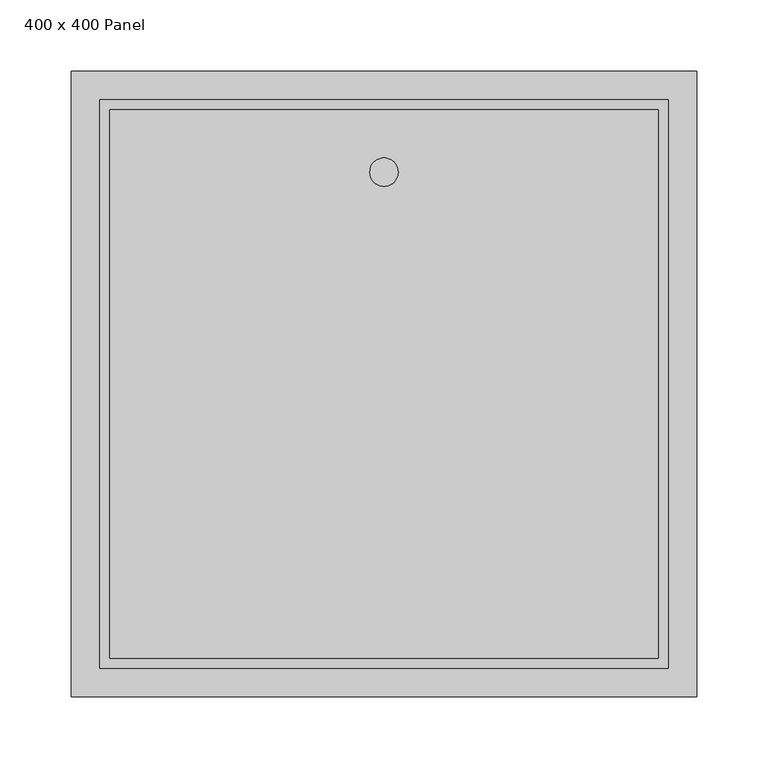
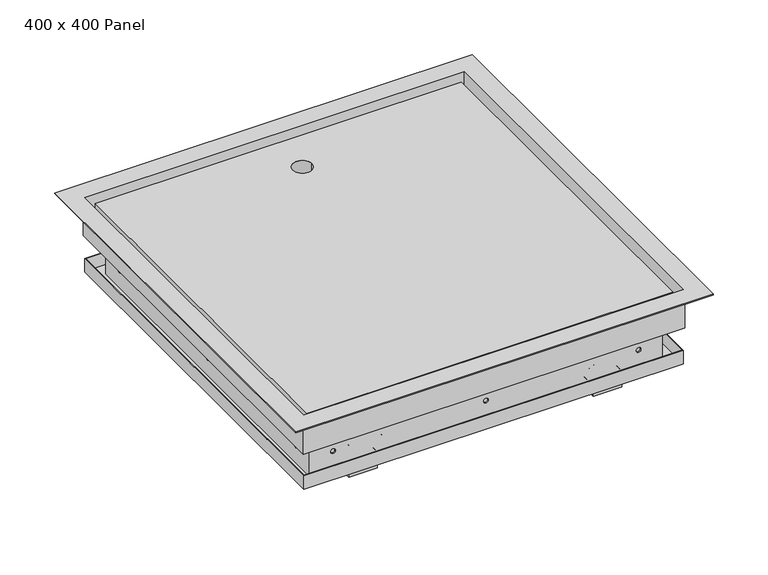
"""IFC4 building model written with IfcOpenShell, lengths in millimetres: proxy geometry, 400 x 400 Fyreshield : 400 x 400 Panel."""

from ifc_helpers import new_model, si_unit, point, frame, frame_2d, origin, place, context, project, spatial, polyline, circle_curve, trimmed, segment, composite_curve, outline, extrude, source, transform, mapped, element, save
from ifc_brep_helpers import plane_surface, revolved_surface, advanced_brep


def proxy_400_x_400_panel_3b8c4bce(model_context):
    return source(origin(), model_context, "Body", "SolidModel", [
        extrude(outline(composite_curve([segment(polyline([(169.0, -45.0), (154.0, -45.0)]), True, "CONTINUOUS"), segment(trimmed(circle_curve(frame_2d((129.0, -45.0)), 25.0), [point((154.0, -45.0))], [point((104.0, -45.0))], False, "CARTESIAN"), True, "CONTINUOUS"), segment(polyline([(104.0, -45.0), (89.0, -45.0), (89.0, -25.0), (129.0, -25.0), (169.0, -25.0), (169.0, -45.0)]), True, "CONTINUOUS")], self_intersect=False)), frame((0.0, 0.0, -43.0), z_axis=(0.0, 0.0, 1.0), x_axis=(1.0, 0.0, 0.0)), (0.0, 0.0, 1.0), 2.0),
        extrude(outline(composite_curve([segment(polyline([(-169.0, -45.0), (-169.0, -25.0), (-129.0, -25.0), (-89.0, -25.0), (-89.0, -45.0), (-104.0, -45.0)]), True, "CONTINUOUS"), segment(trimmed(circle_curve(frame_2d((-129.0, -45.0)), 25.0), [point((-104.0, -45.0))], [point((-154.0, -45.0))], False, "CARTESIAN"), True, "CONTINUOUS"), segment(polyline([(-154.0, -45.0), (-169.0, -45.0)]), True, "CONTINUOUS")], self_intersect=False)), frame((0.0, 0.0, -43.0), z_axis=(0.0, 0.0, 1.0), x_axis=(1.0, 0.0, 0.0)), (0.0, 0.0, 1.0), 2.0),
        extrude(outline(composite_curve([segment(trimmed(circle_curve(frame_2d((-65.0, -49.3136739)), 5.0), [point((-70.0, -49.3136739))], [point((-65.0, -44.3136739))], False, "CARTESIAN"), True, "CONTINUOUS"), segment(polyline([(-65.0, -44.3136739), (-48.5, -42.0), (-34.3304501, -42.0), (-34.3304501, -47.4449364)]), True, "CONTINUOUS"), segment(trimmed(circle_curve(frame_2d((-39.3304501, -47.4449364)), 5.0), [point((-34.3304501, -47.4449364))], [point((-39.3304501, -52.4449364))], False, "CARTESIAN"), True, "CONTINUOUS"), segment(polyline([(-39.3304501, -52.4449364), (-57.5, -52.4449364)]), True, "CONTINUOUS"), segment(trimmed(circle_curve(frame_2d((-57.5, -54.9449364)), 2.5), [point((-57.5, -52.4449364))], [point((-60.0, -54.9449364))], True, "CARTESIAN"), True, "CONTINUOUS"), segment(polyline([(-60.0, -54.9449364), (-60.0, -56.8136739), (-70.0, -56.8136739), (-70.0, -49.3136739)]), True, "CONTINUOUS")], self_intersect=False)), frame((-139.0, 0.0, 0.0), z_axis=(1.0, 0.0, 0.0), x_axis=(0.0, 1.0, 0.0)), (0.0, 0.0, 1.0), 20.0),
        advanced_brep(
        [(143.760434, -85.0, -63.2011546), (143.760434, -80.0, -63.2011546), (148.760434, -80.0, -63.2011546), (148.760434, -85.0, -63.2011546), (148.760434, -85.0, -72.1125194), (148.760434, -80.0, -72.1125194), (148.760434, -80.0, -77.1125194), (148.760434, -85.0, -77.1125194), (143.760434, -80.0, -77.1125194), (143.760434, -85.0, -77.1125194), (143.760434, -80.0, -72.1125194), (143.760434, -85.0, -72.1125194), (114.239566, -85.0, -63.2011546), (114.239566, -80.0, -63.2011546), (109.239566, -80.0, -63.2011546), (109.239566, -85.0, -63.2011546), (109.239566, -85.0, -77.1125194), (109.239566, -80.0, -77.1125194), (109.239566, -80.0, -72.1125194), (109.239566, -85.0, -72.1125194), (114.239566, -85.0, -77.1125194), (114.239566, -80.0, -77.1125194), (114.239566, -85.0, -72.1125194), (114.239566, -80.0, -72.1125194), (139.0, -80.0, -56.8136739), (139.0, -60.0, -56.8136739), (119.0, -60.0, -56.8136739), (119.0, -80.0, -56.8136739), (104.0, -80.0, -56.8136739), (104.0, -85.0, -56.8136739), (154.0, -85.0, -56.8136739), (154.0, -80.0, -56.8136739), (144.0, -80.0, -97.128369), (144.0, -85.0, -97.128369), (114.0, -85.0, -97.128369), (114.0, -80.0, -97.128369), (119.0, -80.0, -97.128369), (119.0, -60.0, -97.128369), (139.0, -60.0, -97.128369), (139.0, -80.0, -97.128369), (144.0, -85.0, -84.5), (146.5, -85.0, -82.0), (154.0, -85.0, -82.0), (104.0, -85.0, -82.0), (111.5, -85.0, -82.0), (114.0, -85.0, -84.5), (114.0, -80.0, -84.5), (111.5, -80.0, -82.0), (104.0, -80.0, -82.0), (154.0, -80.0, -82.0), (146.5, -80.0, -82.0), (144.0, -80.0, -84.5)],
        [
            (0, 1),
            (1, 2, circle_curve(frame((146.260434, -80.0, -63.2011546), z_axis=(0.0, 1.0, 0.0), x_axis=(1.0, 0.0, 0.0)), 2.5)),
            (2, 3),
            (3, 0, circle_curve(frame((146.260434, -85.0, -63.2011546), z_axis=(0.0, -1.0, 0.0), x_axis=(1.0, 0.0, 0.0)), 2.5)),
            (0, 3, circle_curve(frame((146.260434, -85.0, -63.2011546), z_axis=(0.0, -1.0, 0.0), x_axis=(1.0, 0.0, 0.0)), 2.5)),
            (2, 1, circle_curve(frame((146.260434, -80.0, -63.2011546), z_axis=(0.0, 1.0, 0.0), x_axis=(1.0, 0.0, 0.0)), 2.5)),
            (4, 5),
            (5, 6, circle_curve(frame((148.760434, -80.0, -74.6125194), z_axis=(0.0, 1.0, 0.0), x_axis=(1.0, 0.0, 0.0)), 2.5)),
            (6, 7),
            (7, 4, circle_curve(frame((148.760434, -85.0, -74.6125194), z_axis=(0.0, -1.0, 0.0), x_axis=(1.0, 0.0, 0.0)), 2.5)),
            (6, 8),
            (8, 9),
            (9, 7),
            (8, 10, circle_curve(frame((143.760434, -80.0, -74.6125194), z_axis=(0.0, 1.0, 0.0), x_axis=(1.0, 0.0, 0.0)), 2.5)),
            (10, 11),
            (11, 9, circle_curve(frame((143.760434, -85.0, -74.6125194), z_axis=(0.0, -1.0, 0.0), x_axis=(1.0, 0.0, 0.0)), 2.5)),
            (4, 11),
            (10, 5),
            (12, 13),
            (13, 14, circle_curve(frame((111.739566, -80.0, -63.2011546), z_axis=(0.0, 1.0, 0.0), x_axis=(1.0, 0.0, 0.0)), 2.5)),
            (14, 15),
            (15, 12, circle_curve(frame((111.739566, -85.0, -63.2011546), z_axis=(0.0, -1.0, 0.0), x_axis=(1.0, 0.0, 0.0)), 2.5)),
            (12, 15, circle_curve(frame((111.739566, -85.0, -63.2011546), z_axis=(0.0, -1.0, 0.0), x_axis=(1.0, 0.0, 0.0)), 2.5)),
            (14, 13, circle_curve(frame((111.739566, -80.0, -63.2011546), z_axis=(0.0, 1.0, 0.0), x_axis=(1.0, 0.0, 0.0)), 2.5)),
            (16, 17),
            (17, 18, circle_curve(frame((109.239566, -80.0, -74.6125194), z_axis=(0.0, 1.0, 0.0), x_axis=(1.0, 0.0, 0.0)), 2.5)),
            (18, 19),
            (19, 16, circle_curve(frame((109.239566, -85.0, -74.6125194), z_axis=(0.0, -1.0, 0.0), x_axis=(1.0, 0.0, 0.0)), 2.5)),
            (16, 20),
            (20, 21),
            (21, 17),
            (20, 22, circle_curve(frame((114.239566, -85.0, -74.6125194), z_axis=(0.0, -1.0, 0.0), x_axis=(1.0, 0.0, 0.0)), 2.5)),
            (22, 23),
            (23, 21, circle_curve(frame((114.239566, -80.0, -74.6125194), z_axis=(0.0, 1.0, 0.0), x_axis=(1.0, 0.0, 0.0)), 2.5)),
            (18, 23),
            (22, 19),
            (24, 25),
            (25, 26),
            (26, 27),
            (27, 28),
            (28, 29),
            (29, 30),
            (30, 31),
            (31, 24),
            (32, 33),
            (33, 34),
            (34, 35),
            (35, 36),
            (36, 37),
            (37, 38),
            (38, 39),
            (39, 32),
            (33, 40),
            (40, 41, circle_curve(frame((146.5, -85.0, -84.5), z_axis=(0.0, 1.0, 0.0), x_axis=(-1.0, 0.0, 0.0)), 2.5)),
            (41, 42),
            (42, 30),
            (29, 43),
            (43, 44),
            (44, 45, circle_curve(frame((111.5, -85.0, -84.5), z_axis=(0.0, 1.0, 0.0), x_axis=(-1.0, 0.0, 0.0)), 2.5)),
            (45, 34),
            (35, 46),
            (46, 47, circle_curve(frame((111.5, -80.0, -84.5), z_axis=(0.0, -1.0, 0.0), x_axis=(-1.0, 0.0, 0.0)), 2.5)),
            (47, 48),
            (48, 28),
            (27, 36),
            (39, 24),
            (31, 49),
            (49, 50),
            (50, 51, circle_curve(frame((146.5, -80.0, -84.5), z_axis=(0.0, -1.0, 0.0), x_axis=(-1.0, 0.0, 0.0)), 2.5)),
            (51, 32),
            (38, 25),
            (37, 26),
            (45, 46),
            (51, 40),
            (48, 43),
            (44, 47),
            (41, 50),
            (49, 42),
        ],
        [
            revolved_surface(polyline([(148.760434, -85.0, -63.2011546), (148.760434, -80.0, -63.2011546)]), (146.260434, -80.0, -63.2011546), (0.0, -1.0, 0.0)),
            revolved_surface(polyline([(151.260434, -85.0, -74.6125194), (151.260434, -80.0, -74.6125194)]), (148.760434, -80.0, -74.6125194), (0.0, -1.0, 0.0)),
            plane_surface(frame((143.760434, -85.0, -77.1125194), z_axis=(0.0, 0.0, 1.0), x_axis=(0.0, 1.0, 0.0))),
            revolved_surface(polyline([(146.260434, -85.0, -74.6125194), (146.260434, -80.0, -74.6125194)]), (143.760434, -80.0, -74.6125194), (0.0, -1.0, 0.0)),
            plane_surface(frame((148.760434, -85.0, -72.1125194), z_axis=(0.0, 0.0, -1.0), x_axis=(0.0, 1.0, 0.0))),
            revolved_surface(polyline([(114.239566, -85.0, -63.2011546), (114.239566, -80.0, -63.2011546)]), (111.739566, -80.0, -63.2011546), (0.0, -1.0, 0.0)),
            revolved_surface(polyline([(111.739566, -85.0, -74.6125194), (111.739566, -80.0, -74.6125194)]), (109.239566, -80.0, -74.6125194), (0.0, -1.0, 0.0)),
            plane_surface(frame((109.239566, -85.0, -77.1125194), z_axis=(0.0, 0.0, 1.0), x_axis=(0.0, 1.0, 0.0))),
            revolved_surface(polyline([(116.739566, -85.0, -74.6125194), (116.739566, -80.0, -74.6125194)]), (114.239566, -80.0, -74.6125194), (0.0, -1.0, 0.0)),
            plane_surface(frame((114.239566, -85.0, -72.1125194), z_axis=(0.0, 0.0, -1.0), x_axis=(0.0, 1.0, 0.0))),
            plane_surface(frame((-144.0, -85.0, -56.8136739), z_axis=(0.0, 0.0, 1.0), x_axis=(0.0, -1.0, 0.0))),
            plane_surface(frame((-144.0, -85.0, -97.128369), z_axis=(0.0, 0.0, -1.0), x_axis=(0.0, 1.0, 0.0))),
            plane_surface(frame((-144.0, -85.0, -56.8136739), z_axis=(0.0, -1.0, 0.0), x_axis=(0.0, 0.0, -1.0))),
            plane_surface(frame((-114.0, -80.0, -56.8136739), z_axis=(0.0, 1.0, 0.0), x_axis=(0.0, 0.0, -1.0))),
            plane_surface(frame((139.0, -80.0, -56.8136739), z_axis=(1.0, 0.0, 0.0), x_axis=(0.0, 0.0, -1.0))),
            plane_surface(frame((139.0, -60.0, -56.8136739), z_axis=(0.0, 1.0, 0.0), x_axis=(0.0, 0.0, -1.0))),
            plane_surface(frame((119.0, -60.0, -56.8136739), z_axis=(-1.0, 0.0, 0.0), x_axis=(0.0, 0.0, -1.0))),
            plane_surface(frame((114.0, -80.0, -56.8136739), z_axis=(-1.0, 0.0, 0.0), x_axis=(0.0, 0.0, -1.0))),
            plane_surface(frame((144.0, -85.0, -56.8136739), z_axis=(1.0, 0.0, 0.0), x_axis=(0.0, 0.0, -1.0))),
            plane_surface(frame((104.0, -80.0, -82.0), z_axis=(-1.0, 0.0, 0.0), x_axis=(0.0, -1.0, 0.0))),
            revolved_surface(polyline([(109.0, -85.0, -84.5), (109.0, -80.0, -84.5)]), (111.5, -85.0, -84.5), (0.0, -1.0, 0.0)),
            plane_surface(frame((111.5, -80.0, -82.0), z_axis=(0.0, 0.0, -1.0), x_axis=(0.0, -1.0, 0.0))),
            plane_surface(frame((154.0, -80.0, -82.0), z_axis=(0.0, 0.0, -1.0), x_axis=(0.0, -1.0, 0.0))),
            revolved_surface(polyline([(144.0, -85.0, -84.5), (144.0, -80.0, -84.5)]), (146.5, -80.0, -84.5), (0.0, -1.0, 0.0)),
            plane_surface(frame((154.0, -80.0, -56.8136739), z_axis=(1.0, 0.0, 0.0), x_axis=(0.0, -1.0, 0.0))),
        ],
        [
            (0, [[1, 2, 3, 4]]),
            (0, [[-1, 5, -3, 6]]),
            (1, [[7, 8, 9, 10]]),
            (2, [[-9, 11, 12, 13]]),
            (3, [[-12, 14, 15, 16]]),
            (4, [[-7, 17, -15, 18]]),
            (5, [[19, 20, 21, 22]]),
            (5, [[-19, 23, -21, 24]]),
            (6, [[25, 26, 27, 28]]),
            (7, [[-25, 29, 30, 31]]),
            (8, [[-30, 32, 33, 34]]),
            (9, [[-27, 35, -33, 36]]),
            (10, [[37, 38, 39, 40, 41, 42, 43, 44]]),
            (11, [[45, 46, 47, 48, 49, 50, 51, 52]]),
            (12, [[-46, 53, 54, 55, 56, -42, 57, 58, 59, 60], [-4, -5], [-10, -13, -16, -17], [-22, -23], [-28, -36, -32, -29]]),
            (13, [[-48, 61, 62, 63, 64, -40, 65], [-20, -24], [-26, -31, -34, -35]]),
            (13, [[-52, 66, -44, 67, 68, 69, 70], [-2, -6], [-8, -18, -14, -11]]),
            (14, [[-37, -66, -51, 71]]),
            (15, [[-38, -71, -50, 72]]),
            (16, [[-39, -72, -49, -65]]),
            (17, [[-47, -60, 73, -61]]),
            (18, [[-45, -70, 74, -53]]),
            (19, [[-57, -41, -64, 75]]),
            (20, [[-59, 76, -62, -73]]),
            (21, [[-58, -75, -63, -76]]),
            (22, [[-55, 77, -68, 78]]),
            (23, [[-54, -74, -69, -77]]),
            (24, [[-56, -78, -67, -43]]),
        ],
    ),
        advanced_brep(
        [(-119.0, -80.0, -56.8136739), (-119.0, -60.0, -56.8136739), (-139.0, -60.0, -56.8136739), (-139.0, -80.0, -56.8136739), (-154.0, -80.0, -56.8136739), (-154.0, -85.0, -56.8136739), (-104.0, -85.0, -56.8136739), (-104.0, -80.0, -56.8136739), (-144.0, -80.0, -97.128369), (-139.0, -80.0, -97.128369), (-139.0, -60.0, -97.128369), (-119.0, -60.0, -97.128369), (-119.0, -80.0, -97.128369), (-114.0, -80.0, -97.128369), (-114.0, -85.0, -97.128369), (-144.0, -85.0, -97.128369), (-144.0, -85.0, -84.5), (-144.0, -80.0, -84.5), (-114.0, -85.0, -84.5), (-111.5, -85.0, -82.0), (-104.0, -85.0, -82.0), (-154.0, -85.0, -82.0), (-146.5, -85.0, -82.0), (-109.239566, -85.0, -63.2011546), (-114.239566, -85.0, -63.2011546), (-114.239566, -85.0, -72.1125194), (-109.239566, -85.0, -72.1125194), (-109.239566, -85.0, -77.1125194), (-114.239566, -85.0, -77.1125194), (-143.760434, -85.0, -63.2011546), (-148.760434, -85.0, -63.2011546), (-148.760434, -85.0, -77.1125194), (-148.760434, -85.0, -72.1125194), (-143.760434, -85.0, -72.1125194), (-143.760434, -85.0, -77.1125194), (-114.0, -80.0, -84.5), (-146.5, -80.0, -82.0), (-154.0, -80.0, -82.0), (-148.760434, -80.0, -63.2011546), (-143.760434, -80.0, -63.2011546), (-148.760434, -80.0, -72.1125194), (-148.760434, -80.0, -77.1125194), (-143.760434, -80.0, -77.1125194), (-143.760434, -80.0, -72.1125194), (-104.0, -80.0, -82.0), (-111.5, -80.0, -82.0), (-114.239566, -80.0, -63.2011546), (-109.239566, -80.0, -63.2011546), (-109.239566, -80.0, -72.1125194), (-114.239566, -80.0, -72.1125194), (-114.239566, -80.0, -77.1125194), (-109.239566, -80.0, -77.1125194)],
        [
            (0, 1),
            (1, 2),
            (2, 3),
            (3, 4),
            (4, 5),
            (5, 6),
            (6, 7),
            (7, 0),
            (8, 9),
            (9, 10),
            (10, 11),
            (11, 12),
            (12, 13),
            (13, 14),
            (14, 15),
            (15, 8),
            (15, 16),
            (16, 17),
            (17, 8),
            (14, 18),
            (18, 19, circle_curve(frame((-111.5, -85.0, -84.5), z_axis=(0.0, 1.0, 0.0), x_axis=(-1.0, 0.0, 0.0)), 2.5)),
            (19, 20),
            (20, 6),
            (5, 21),
            (21, 22),
            (22, 16, circle_curve(frame((-146.5, -85.0, -84.5), z_axis=(0.0, 1.0, 0.0), x_axis=(-1.0, 0.0, 0.0)), 2.5)),
            (23, 24, circle_curve(frame((-111.739566, -85.0, -63.2011546), z_axis=(0.0, 1.0, 0.0), x_axis=(1.0, 0.0, 0.0)), 2.5)),
            (24, 23, circle_curve(frame((-111.739566, -85.0, -63.2011546), z_axis=(0.0, 1.0, 0.0), x_axis=(1.0, 0.0, 0.0)), 2.5)),
            (25, 26),
            (26, 27, circle_curve(frame((-109.239566, -85.0, -74.6125194), z_axis=(0.0, 1.0, 0.0), x_axis=(1.0, 0.0, 0.0)), 2.5)),
            (27, 28),
            (28, 25, circle_curve(frame((-114.239566, -85.0, -74.6125194), z_axis=(0.0, 1.0, 0.0), x_axis=(1.0, 0.0, 0.0)), 2.5)),
            (29, 30, circle_curve(frame((-146.260434, -85.0, -63.2011546), z_axis=(0.0, 1.0, 0.0), x_axis=(1.0, 0.0, 0.0)), 2.5)),
            (30, 29, circle_curve(frame((-146.260434, -85.0, -63.2011546), z_axis=(0.0, 1.0, 0.0), x_axis=(1.0, 0.0, 0.0)), 2.5)),
            (31, 32, circle_curve(frame((-148.760434, -85.0, -74.6125194), z_axis=(0.0, 1.0, 0.0), x_axis=(1.0, 0.0, 0.0)), 2.5)),
            (32, 33),
            (33, 34, circle_curve(frame((-143.760434, -85.0, -74.6125194), z_axis=(0.0, 1.0, 0.0), x_axis=(1.0, 0.0, 0.0)), 2.5)),
            (34, 31),
            (13, 35),
            (35, 18),
            (17, 36, circle_curve(frame((-146.5, -80.0, -84.5), z_axis=(0.0, -1.0, 0.0), x_axis=(-1.0, 0.0, 0.0)), 2.5)),
            (36, 37),
            (37, 4),
            (3, 9),
            (38, 39, circle_curve(frame((-146.260434, -80.0, -63.2011546), z_axis=(0.0, -1.0, 0.0), x_axis=(1.0, 0.0, 0.0)), 2.5)),
            (39, 38, circle_curve(frame((-146.260434, -80.0, -63.2011546), z_axis=(0.0, -1.0, 0.0), x_axis=(1.0, 0.0, 0.0)), 2.5)),
            (40, 41, circle_curve(frame((-148.760434, -80.0, -74.6125194), z_axis=(0.0, -1.0, 0.0), x_axis=(1.0, 0.0, 0.0)), 2.5)),
            (41, 42),
            (42, 43, circle_curve(frame((-143.760434, -80.0, -74.6125194), z_axis=(0.0, -1.0, 0.0), x_axis=(1.0, 0.0, 0.0)), 2.5)),
            (43, 40),
            (12, 0),
            (7, 44),
            (44, 45),
            (45, 35, circle_curve(frame((-111.5, -80.0, -84.5), z_axis=(0.0, -1.0, 0.0), x_axis=(-1.0, 0.0, 0.0)), 2.5)),
            (46, 47, circle_curve(frame((-111.739566, -80.0, -63.2011546), z_axis=(0.0, -1.0, 0.0), x_axis=(1.0, 0.0, 0.0)), 2.5)),
            (47, 46, circle_curve(frame((-111.739566, -80.0, -63.2011546), z_axis=(0.0, -1.0, 0.0), x_axis=(1.0, 0.0, 0.0)), 2.5)),
            (48, 49),
            (49, 50, circle_curve(frame((-114.239566, -80.0, -74.6125194), z_axis=(0.0, -1.0, 0.0), x_axis=(1.0, 0.0, 0.0)), 2.5)),
            (50, 51),
            (51, 48, circle_curve(frame((-109.239566, -80.0, -74.6125194), z_axis=(0.0, -1.0, 0.0), x_axis=(1.0, 0.0, 0.0)), 2.5)),
            (11, 1),
            (10, 2),
            (23, 47),
            (46, 24),
            (25, 49),
            (48, 26),
            (28, 50),
            (27, 51),
            (29, 39),
            (38, 30),
            (31, 41),
            (40, 32),
            (34, 42),
            (33, 43),
            (37, 21),
            (22, 36),
            (19, 45),
            (44, 20),
        ],
        [
            plane_surface(frame((-144.0, -85.0, -56.8136739), z_axis=(0.0, 0.0, 1.0), x_axis=(0.0, -1.0, 0.0))),
            plane_surface(frame((-144.0, -85.0, -97.128369), z_axis=(0.0, 0.0, -1.0), x_axis=(0.0, 1.0, 0.0))),
            plane_surface(frame((-144.0, -80.0, -56.8136739), z_axis=(-1.0, 0.0, 0.0), x_axis=(0.0, 0.0, -1.0))),
            plane_surface(frame((-144.0, -85.0, -56.8136739), z_axis=(0.0, -1.0, 0.0), x_axis=(0.0, 0.0, -1.0))),
            plane_surface(frame((-114.0, -85.0, -56.8136739), z_axis=(1.0, 0.0, 0.0), x_axis=(0.0, 0.0, -1.0))),
            plane_surface(frame((-114.0, -80.0, -56.8136739), z_axis=(0.0, 1.0, 0.0), x_axis=(0.0, 0.0, -1.0))),
            plane_surface(frame((-119.0, -80.0, -56.8136739), z_axis=(1.0, 0.0, 0.0), x_axis=(0.0, 0.0, -1.0))),
            plane_surface(frame((-119.0, -60.0, -56.8136739), z_axis=(0.0, 1.0, 0.0), x_axis=(0.0, 0.0, -1.0))),
            plane_surface(frame((-139.0, -60.0, -56.8136739), z_axis=(-1.0, 0.0, 0.0), x_axis=(0.0, 0.0, -1.0))),
            revolved_surface(polyline([(-109.239566, -85.0, -63.2011546), (-109.239566, -80.0, -63.2011546)]), (-111.739566, -80.0, -63.2011546), (0.0, -1.0, 0.0)),
            plane_surface(frame((-109.239566, -85.0, -72.1125194), z_axis=(0.0, 0.0, -1.0), x_axis=(0.0, 1.0, 0.0))),
            revolved_surface(polyline([(-111.739566, -85.0, -74.6125194), (-111.739566, -80.0, -74.6125194)]), (-114.239566, -80.0, -74.6125194), (0.0, -1.0, 0.0)),
            plane_surface(frame((-114.239566, -85.0, -77.1125194), z_axis=(0.0, 0.0, 1.0), x_axis=(0.0, 1.0, 0.0))),
            revolved_surface(polyline([(-106.739566, -85.0, -74.6125194), (-106.739566, -80.0, -74.6125194)]), (-109.239566, -80.0, -74.6125194), (0.0, -1.0, 0.0)),
            revolved_surface(polyline([(-143.760434, -85.0, -63.2011546), (-143.760434, -80.0, -63.2011546)]), (-146.260434, -80.0, -63.2011546), (0.0, -1.0, 0.0)),
            revolved_surface(polyline([(-146.260434, -85.0, -74.6125194), (-146.260434, -80.0, -74.6125194)]), (-148.760434, -80.0, -74.6125194), (0.0, -1.0, 0.0)),
            plane_surface(frame((-148.760434, -85.0, -77.1125194), z_axis=(0.0, 0.0, 1.0), x_axis=(0.0, 1.0, 0.0))),
            revolved_surface(polyline([(-141.260434, -85.0, -74.6125194), (-141.260434, -80.0, -74.6125194)]), (-143.760434, -80.0, -74.6125194), (0.0, -1.0, 0.0)),
            plane_surface(frame((-143.760434, -85.0, -72.1125194), z_axis=(0.0, 0.0, -1.0), x_axis=(0.0, 1.0, 0.0))),
            plane_surface(frame((-154.0, -80.0, -82.0), z_axis=(-1.0, 0.0, 0.0), x_axis=(0.0, -1.0, 0.0))),
            revolved_surface(polyline([(-149.0, -85.0, -84.5), (-149.0, -80.0, -84.5)]), (-146.5, -80.0, -84.5), (0.0, -1.0, 0.0)),
            plane_surface(frame((-146.5, -80.0, -82.0), z_axis=(0.0, 0.0, -1.0), x_axis=(0.0, -1.0, 0.0))),
            plane_surface(frame((-104.0, -80.0, -82.0), z_axis=(0.0, 0.0, -1.0), x_axis=(0.0, -1.0, 0.0))),
            revolved_surface(polyline([(-114.0, -85.0, -84.5), (-114.0, -80.0, -84.5)]), (-111.5, -80.0, -84.5), (0.0, -1.0, 0.0)),
            plane_surface(frame((-104.0, -80.0, -56.8136739), z_axis=(1.0, 0.0, 0.0), x_axis=(0.0, -1.0, 0.0))),
        ],
        [
            (0, [[1, 2, 3, 4, 5, 6, 7, 8]]),
            (1, [[9, 10, 11, 12, 13, 14, 15, 16]]),
            (2, [[-16, 17, 18, 19]]),
            (3, [[-15, 20, 21, 22, 23, -6, 24, 25, 26, -17], [27, 28], [29, 30, 31, 32], [33, 34], [35, 36, 37, 38]]),
            (4, [[-14, 39, 40, -20]]),
            (5, [[-9, -19, 41, 42, 43, -4, 44], [45, 46], [47, 48, 49, 50]]),
            (5, [[-13, 51, -8, 52, 53, 54, -39], [55, 56], [57, 58, 59, 60]]),
            (6, [[-1, -51, -12, 61]]),
            (7, [[-2, -61, -11, 62]]),
            (8, [[-3, -62, -10, -44]]),
            (9, [[63, -55, 64, -27]]),
            (9, [[-63, -28, -64, -56]]),
            (10, [[65, -57, 66, -29]]),
            (11, [[-65, -32, 67, -58]]),
            (12, [[-67, -31, 68, -59]]),
            (13, [[-66, -60, -68, -30]]),
            (14, [[69, -45, 70, -33]]),
            (14, [[-69, -34, -70, -46]]),
            (15, [[71, -47, 72, -35]]),
            (16, [[-71, -38, 73, -48]]),
            (17, [[-73, -37, 74, -49]]),
            (18, [[-72, -50, -74, -36]]),
            (19, [[-24, -5, -43, 75]]),
            (20, [[-26, 76, -41, -18]]),
            (21, [[-25, -75, -42, -76]]),
            (22, [[-22, 77, -53, 78]]),
            (23, [[-21, -40, -54, -77]]),
            (24, [[-23, -78, -52, -7]]),
        ],
    ),
        extrude(outline(composite_curve([segment(polyline([(179.0, 279.0), (179.0, -79.0), (149.0, -79.0), (149.0, -59.0)]), True, "CONTINUOUS"), segment(trimmed(circle_curve(frame_2d((129.0, -59.0)), 20.0), [point((149.0, -59.0))], [point((109.0, -59.0))], True, "CARTESIAN"), True, "CONTINUOUS"), segment(polyline([(109.0, -59.0), (109.0, -79.0), (-109.0, -79.0), (-109.0, -59.0)]), True, "CONTINUOUS"), segment(trimmed(circle_curve(frame_2d((-129.0, -59.0)), 20.0), [point((-109.0, -59.0))], [point((-149.0, -59.0))], True, "CARTESIAN"), True, "CONTINUOUS"), segment(polyline([(-149.0, -59.0), (-149.0, -79.0), (-179.0, -79.0), (-179.0, 279.0), (179.0, 279.0)]), True, "CONTINUOUS")], self_intersect=False)), frame((0.0, 0.0, -77.2487382), z_axis=(0.0, 0.0, 1.0), x_axis=(1.0, 0.0, 0.0)), (0.0, 0.0, 1.0), 36.2487382),
        extrude(outline(polyline([(193.0, 293.0), (193.0, -93.0), (-193.0, -93.0), (-193.0, 293.0), (193.0, 293.0)]), holes=[composite_curve([segment(trimmed(circle_curve(frame_2d((0.0, 249.0)), 10.0), [point((-10.0, 249.0))], [point((10.0, 249.0))], True, "CARTESIAN"), True, "CONTINUOUS"), segment(trimmed(circle_curve(frame_2d((0.0, 249.0)), 10.0), [point((10.0, 249.0))], [point((-10.0, 249.0))], True, "CARTESIAN"), True, "CONTINUOUS")], self_intersect=False)]), frame((0.0, 0.0, -41.0), z_axis=(0.0, 0.0, 1.0), x_axis=(1.0, 0.0, 0.0)), (0.0, 0.0, 1.0), 37.0),
        extrude(outline(composite_curve([segment(trimmed(circle_curve(frame_2d((-65.0, -49.3136739)), 5.0), [point((-70.0, -49.3136739))], [point((-65.0, -44.3136739))], False, "CARTESIAN"), True, "CONTINUOUS"), segment(polyline([(-65.0, -44.3136739), (-48.5, -42.0), (-34.3304501, -42.0), (-34.3304501, -47.4449364)]), True, "CONTINUOUS"), segment(trimmed(circle_curve(frame_2d((-39.3304501, -47.4449364)), 5.0), [point((-34.3304501, -47.4449364))], [point((-39.3304501, -52.4449364))], False, "CARTESIAN"), True, "CONTINUOUS"), segment(polyline([(-39.3304501, -52.4449364), (-57.5, -52.4449364)]), True, "CONTINUOUS"), segment(trimmed(circle_curve(frame_2d((-57.5, -54.9449364)), 2.5), [point((-57.5, -52.4449364))], [point((-60.0, -54.9449364))], True, "CARTESIAN"), True, "CONTINUOUS"), segment(polyline([(-60.0, -54.9449364), (-60.0, -56.8136739), (-70.0, -56.8136739), (-70.0, -49.3136739)]), True, "CONTINUOUS")], self_intersect=False)), frame((119.0, 0.0, 0.0), z_axis=(1.0, 0.0, 0.0), x_axis=(0.0, 1.0, 0.0)), (0.0, 0.0, 1.0), 20.0),
        extrude(outline(composite_curve([segment(polyline([(10.0, 279.0), (-10.0, 279.0), (-10.0, 296.0)]), True, "CONTINUOUS"), segment(trimmed(circle_curve(frame_2d((-5.0, 296.0)), 5.0), [point((-10.0, 296.0))], [point((-5.0, 301.0))], False, "CARTESIAN"), True, "CONTINUOUS"), segment(polyline([(-5.0, 301.0), (5.0, 301.0)]), True, "CONTINUOUS"), segment(trimmed(circle_curve(frame_2d((5.0, 296.0)), 5.0), [point((5.0, 301.0))], [point((10.0, 296.0))], False, "CARTESIAN"), True, "CONTINUOUS"), segment(polyline([(10.0, 296.0), (10.0, 279.0)]), True, "CONTINUOUS")], self_intersect=False)), frame((0.0, 0.0, -49.5), z_axis=(0.0, 0.0, 1.0), x_axis=(1.0, 0.0, 0.0)), (0.0, 0.0, 1.0), 5.0),
        advanced_brep(
        [(220.0, 320.0, 0.0), (220.0, 320.0, 1.0), (220.0, -120.0, 1.0), (220.0, -120.0, 0.0), (201.0, 301.0, -42.0), (201.0, 301.0, 0.0), (201.0, -101.0, 0.0), (201.0, -101.0, -42.0), (186.0, 286.0, -81.0), (186.0, 286.0, -42.0), (186.0, -86.0, -42.0), (186.0, -86.0, -81.0), (186.0, -63.5, -61.5), (186.0, -58.5, -61.5), (186.0, 258.5, -61.5), (186.0, 263.5, -61.5), (186.0, 97.5, -61.5), (186.0, 102.5, -61.5), (199.0, 299.0, -67.0), (199.0, 299.0, -81.0), (199.0, -99.0, -81.0), (199.0, -99.0, -67.0), (200.0, 300.0, -82.0), (200.0, 300.0, -67.0), (200.0, -100.0, -67.0), (200.0, -100.0, -82.0), (185.0, 285.0, -41.0), (185.0, 285.0, -82.0), (185.0, -85.0, -82.0), (185.0, -85.0, -41.0), (185.0, -58.5, -61.5), (185.0, -63.5, -61.5), (185.0, 263.5, -61.5), (185.0, 258.5, -61.5), (185.0, 102.5, -61.5), (185.0, 97.5, -61.5), (200.0, 300.0, 1.0), (200.0, 300.0, -41.0), (200.0, -100.0, -41.0), (200.0, -100.0, 1.0), (-220.0, -120.0, 1.0), (-220.0, -120.0, 0.0), (-201.0, -101.0, 0.0), (-201.0, -101.0, -42.0), (-186.0, -86.0, -42.0), (-186.0, -86.0, -81.0), (-163.5, -86.0, -61.5), (-158.5, -86.0, -61.5), (158.5, -86.0, -61.5), (163.5, -86.0, -61.5), (-2.5, -86.0, -61.5), (2.5, -86.0, -61.5), (-199.0, -99.0, -81.0), (-199.0, -99.0, -67.0), (-200.0, -100.0, -67.0), (-200.0, -100.0, -82.0), (-185.0, -85.0, -82.0), (-185.0, -85.0, -41.0), (-158.5, -85.0, -61.5), (-163.5, -85.0, -61.5), (163.5, -85.0, -61.5), (158.5, -85.0, -61.5), (2.5, -85.0, -61.5), (-2.5, -85.0, -61.5), (-200.0, -100.0, -41.0), (-200.0, -100.0, 1.0), (-220.0, 320.0, 1.0), (-220.0, 320.0, 0.0), (-201.0, 301.0, 0.0), (-201.0, 301.0, -42.0), (-186.0, 286.0, -42.0), (-186.0, 286.0, -81.0), (-186.0, 263.5, -61.5), (-186.0, 258.5, -61.5), (-186.0, -58.5, -61.5), (-186.0, -63.5, -61.5), (-186.0, 102.5, -61.5), (-186.0, 97.5, -61.5), (-199.0, 299.0, -81.0), (-199.0, 299.0, -67.0), (-200.0, 300.0, -67.0), (-200.0, 300.0, -82.0), (-185.0, 285.0, -82.0), (-185.0, 285.0, -41.0), (-185.0, 258.5, -61.5), (-185.0, 263.5, -61.5), (-185.0, -63.5, -61.5), (-185.0, -58.5, -61.5), (-185.0, 97.5, -61.5), (-185.0, 102.5, -61.5), (-200.0, 300.0, -41.0), (-200.0, 300.0, 1.0), (30.9960275, 286.0, -42.0), (30.9960275, 285.0, -42.0), (-30.9960275, 285.0, -42.0), (-30.9960275, 286.0, -42.0), (-30.9960275, 286.0, -52.0), (30.9960275, 286.0, -52.0), (163.5, 286.0, -61.5), (158.5, 286.0, -61.5), (-158.5, 286.0, -61.5), (-163.5, 286.0, -61.5), (2.5, 286.0, -61.5), (-2.5, 286.0, -61.5), (158.5, 285.0, -61.5), (163.5, 285.0, -61.5), (-163.5, 285.0, -61.5), (-158.5, 285.0, -61.5), (-2.5, 285.0, -61.5), (2.5, 285.0, -61.5), (30.9960275, 285.0, -52.0), (-30.9960275, 285.0, -52.0)],
        [
            (0, 1),
            (1, 2),
            (2, 3),
            (3, 0),
            (4, 5),
            (5, 6),
            (6, 7),
            (7, 4),
            (8, 9),
            (9, 10),
            (10, 11),
            (11, 8),
            (12, 13, circle_curve(frame((186.0, -61.0, -61.5), z_axis=(-1.0, 0.0, 0.0), x_axis=(0.0, -1.0, 0.0)), 2.5)),
            (13, 12, circle_curve(frame((186.0, -61.0, -61.5), z_axis=(-1.0, 0.0, 0.0), x_axis=(0.0, -1.0, 0.0)), 2.5)),
            (14, 15, circle_curve(frame((186.0, 261.0, -61.5), z_axis=(-1.0, 0.0, 0.0), x_axis=(0.0, -1.0, 0.0)), 2.5)),
            (15, 14, circle_curve(frame((186.0, 261.0, -61.5), z_axis=(-1.0, 0.0, 0.0), x_axis=(0.0, -1.0, 0.0)), 2.5)),
            (16, 17, circle_curve(frame((186.0, 100.0, -61.5), z_axis=(-1.0, 0.0, 0.0), x_axis=(0.0, -1.0, 0.0)), 2.5)),
            (17, 16, circle_curve(frame((186.0, 100.0, -61.5), z_axis=(-1.0, 0.0, 0.0), x_axis=(0.0, -1.0, 0.0)), 2.5)),
            (18, 19),
            (19, 20),
            (20, 21),
            (21, 18),
            (22, 23),
            (23, 24),
            (24, 25),
            (25, 22),
            (26, 27),
            (27, 28),
            (28, 29),
            (29, 26),
            (30, 31, circle_curve(frame((185.0, -61.0, -61.5), z_axis=(1.0, 0.0, 0.0), x_axis=(0.0, -1.0, 0.0)), 2.5)),
            (31, 30, circle_curve(frame((185.0, -61.0, -61.5), z_axis=(1.0, 0.0, 0.0), x_axis=(0.0, -1.0, 0.0)), 2.5)),
            (32, 33, circle_curve(frame((185.0, 261.0, -61.5), z_axis=(1.0, 0.0, 0.0), x_axis=(0.0, -1.0, 0.0)), 2.5)),
            (33, 32, circle_curve(frame((185.0, 261.0, -61.5), z_axis=(1.0, 0.0, 0.0), x_axis=(0.0, -1.0, 0.0)), 2.5)),
            (34, 35, circle_curve(frame((185.0, 100.0, -61.5), z_axis=(1.0, 0.0, 0.0), x_axis=(0.0, -1.0, 0.0)), 2.5)),
            (35, 34, circle_curve(frame((185.0, 100.0, -61.5), z_axis=(1.0, 0.0, 0.0), x_axis=(0.0, -1.0, 0.0)), 2.5)),
            (36, 37),
            (37, 38),
            (38, 39),
            (39, 36),
            (2, 40),
            (40, 41),
            (41, 3),
            (6, 42),
            (42, 43),
            (43, 7),
            (10, 44),
            (44, 45),
            (45, 11),
            (46, 47, circle_curve(frame((-161.0, -86.0, -61.5), z_axis=(0.0, 1.0, 0.0), x_axis=(-1.0, 0.0, 0.0)), 2.5)),
            (47, 46, circle_curve(frame((-161.0, -86.0, -61.5), z_axis=(0.0, 1.0, 0.0), x_axis=(-1.0, 0.0, 0.0)), 2.5)),
            (48, 49, circle_curve(frame((161.0, -86.0, -61.5), z_axis=(0.0, 1.0, 0.0), x_axis=(-1.0, 0.0, 0.0)), 2.5)),
            (49, 48, circle_curve(frame((161.0, -86.0, -61.5), z_axis=(0.0, 1.0, 0.0), x_axis=(-1.0, 0.0, 0.0)), 2.5)),
            (50, 51, circle_curve(frame((0.0, -86.0, -61.5), z_axis=(0.0, 1.0, 0.0), x_axis=(-1.0, 0.0, 0.0)), 2.5)),
            (51, 50, circle_curve(frame((0.0, -86.0, -61.5), z_axis=(0.0, 1.0, 0.0), x_axis=(-1.0, 0.0, 0.0)), 2.5)),
            (20, 52),
            (52, 53),
            (53, 21),
            (24, 54),
            (54, 55),
            (55, 25),
            (28, 56),
            (56, 57),
            (57, 29),
            (58, 59, circle_curve(frame((-161.0, -85.0, -61.5), z_axis=(0.0, -1.0, 0.0), x_axis=(-1.0, 0.0, 0.0)), 2.5)),
            (59, 58, circle_curve(frame((-161.0, -85.0, -61.5), z_axis=(0.0, -1.0, 0.0), x_axis=(-1.0, 0.0, 0.0)), 2.5)),
            (60, 61, circle_curve(frame((161.0, -85.0, -61.5), z_axis=(0.0, -1.0, 0.0), x_axis=(-1.0, 0.0, 0.0)), 2.5)),
            (61, 60, circle_curve(frame((161.0, -85.0, -61.5), z_axis=(0.0, -1.0, 0.0), x_axis=(-1.0, 0.0, 0.0)), 2.5)),
            (62, 63, circle_curve(frame((0.0, -85.0, -61.5), z_axis=(0.0, -1.0, 0.0), x_axis=(-1.0, 0.0, 0.0)), 2.5)),
            (63, 62, circle_curve(frame((0.0, -85.0, -61.5), z_axis=(0.0, -1.0, 0.0), x_axis=(-1.0, 0.0, 0.0)), 2.5)),
            (38, 64),
            (64, 65),
            (65, 39),
            (40, 66),
            (66, 67),
            (67, 41),
            (42, 68),
            (68, 69),
            (69, 43),
            (44, 70),
            (70, 71),
            (71, 45),
            (72, 73, circle_curve(frame((-186.0, 261.0, -61.5), z_axis=(1.0, 0.0, 0.0), x_axis=(0.0, 1.0, 0.0)), 2.5)),
            (73, 72, circle_curve(frame((-186.0, 261.0, -61.5), z_axis=(1.0, 0.0, 0.0), x_axis=(0.0, 1.0, 0.0)), 2.5)),
            (74, 75, circle_curve(frame((-186.0, -61.0, -61.5), z_axis=(1.0, 0.0, 0.0), x_axis=(0.0, 1.0, 0.0)), 2.5)),
            (75, 74, circle_curve(frame((-186.0, -61.0, -61.5), z_axis=(1.0, 0.0, 0.0), x_axis=(0.0, 1.0, 0.0)), 2.5)),
            (76, 77, circle_curve(frame((-186.0, 100.0, -61.5), z_axis=(1.0, 0.0, 0.0), x_axis=(0.0, 1.0, 0.0)), 2.5)),
            (77, 76, circle_curve(frame((-186.0, 100.0, -61.5), z_axis=(1.0, 0.0, 0.0), x_axis=(0.0, 1.0, 0.0)), 2.5)),
            (52, 78),
            (78, 79),
            (79, 53),
            (54, 80),
            (80, 81),
            (81, 55),
            (56, 82),
            (82, 83),
            (83, 57),
            (84, 85, circle_curve(frame((-185.0, 261.0, -61.5), z_axis=(-1.0, 0.0, 0.0), x_axis=(0.0, 1.0, 0.0)), 2.5)),
            (85, 84, circle_curve(frame((-185.0, 261.0, -61.5), z_axis=(-1.0, 0.0, 0.0), x_axis=(0.0, 1.0, 0.0)), 2.5)),
            (86, 87, circle_curve(frame((-185.0, -61.0, -61.5), z_axis=(-1.0, 0.0, 0.0), x_axis=(0.0, 1.0, 0.0)), 2.5)),
            (87, 86, circle_curve(frame((-185.0, -61.0, -61.5), z_axis=(-1.0, 0.0, 0.0), x_axis=(0.0, 1.0, 0.0)), 2.5)),
            (88, 89, circle_curve(frame((-185.0, 100.0, -61.5), z_axis=(-1.0, 0.0, 0.0), x_axis=(0.0, 1.0, 0.0)), 2.5)),
            (89, 88, circle_curve(frame((-185.0, 100.0, -61.5), z_axis=(-1.0, 0.0, 0.0), x_axis=(0.0, 1.0, 0.0)), 2.5)),
            (64, 90),
            (90, 91),
            (91, 65),
            (0, 67),
            (66, 1),
            (5, 68),
            (4, 69),
            (9, 92),
            (92, 93),
            (93, 94),
            (94, 95),
            (95, 70),
            (8, 71),
            (95, 96),
            (96, 97),
            (97, 92),
            (98, 99, circle_curve(frame((161.0, 286.0, -61.5), z_axis=(0.0, -1.0, 0.0), x_axis=(1.0, 0.0, 0.0)), 2.5)),
            (99, 98, circle_curve(frame((161.0, 286.0, -61.5), z_axis=(0.0, -1.0, 0.0), x_axis=(1.0, 0.0, 0.0)), 2.5)),
            (100, 101, circle_curve(frame((-161.0, 286.0, -61.5), z_axis=(0.0, -1.0, 0.0), x_axis=(1.0, 0.0, 0.0)), 2.5)),
            (101, 100, circle_curve(frame((-161.0, 286.0, -61.5), z_axis=(0.0, -1.0, 0.0), x_axis=(1.0, 0.0, 0.0)), 2.5)),
            (102, 103, circle_curve(frame((0.0, 286.0, -61.5), z_axis=(0.0, -1.0, 0.0), x_axis=(1.0, 0.0, 0.0)), 2.5)),
            (103, 102, circle_curve(frame((0.0, 286.0, -61.5), z_axis=(0.0, -1.0, 0.0), x_axis=(1.0, 0.0, 0.0)), 2.5)),
            (19, 78),
            (18, 79),
            (23, 80),
            (22, 81),
            (27, 82),
            (26, 83),
            (104, 105, circle_curve(frame((161.0, 285.0, -61.5), z_axis=(0.0, 1.0, 0.0), x_axis=(1.0, 0.0, 0.0)), 2.5)),
            (105, 104, circle_curve(frame((161.0, 285.0, -61.5), z_axis=(0.0, 1.0, 0.0), x_axis=(1.0, 0.0, 0.0)), 2.5)),
            (106, 107, circle_curve(frame((-161.0, 285.0, -61.5), z_axis=(0.0, 1.0, 0.0), x_axis=(1.0, 0.0, 0.0)), 2.5)),
            (107, 106, circle_curve(frame((-161.0, 285.0, -61.5), z_axis=(0.0, 1.0, 0.0), x_axis=(1.0, 0.0, 0.0)), 2.5)),
            (108, 109, circle_curve(frame((0.0, 285.0, -61.5), z_axis=(0.0, 1.0, 0.0), x_axis=(1.0, 0.0, 0.0)), 2.5)),
            (109, 108, circle_curve(frame((0.0, 285.0, -61.5), z_axis=(0.0, 1.0, 0.0), x_axis=(1.0, 0.0, 0.0)), 2.5)),
            (93, 110),
            (110, 111),
            (111, 94),
            (37, 90),
            (36, 91),
            (98, 105),
            (104, 99),
            (100, 107),
            (106, 101),
            (72, 85),
            (84, 73),
            (74, 87),
            (86, 75),
            (12, 31),
            (30, 13),
            (14, 33),
            (32, 15),
            (46, 59),
            (58, 47),
            (48, 61),
            (60, 49),
            (102, 109),
            (108, 103),
            (76, 89),
            (88, 77),
            (16, 35),
            (34, 17),
            (50, 63),
            (62, 51),
            (97, 110),
            (111, 96),
        ],
        [
            plane_surface(frame((220.0, 320.0, 1.0), z_axis=(1.0, 0.0, 0.0), x_axis=(0.0, -1.0, 0.0))),
            plane_surface(frame((201.0, 301.0, 0.0), z_axis=(1.0, 0.0, 0.0), x_axis=(0.0, -1.0, 0.0))),
            plane_surface(frame((186.0, 286.0, -42.0), z_axis=(1.0, 0.0, 0.0), x_axis=(0.0, -1.0, 0.0))),
            plane_surface(frame((199.0, 299.0, -81.0), z_axis=(-1.0, 0.0, 0.0), x_axis=(0.0, -1.0, 0.0))),
            plane_surface(frame((200.0, 300.0, -67.0), z_axis=(1.0, 0.0, 0.0), x_axis=(0.0, -1.0, 0.0))),
            plane_surface(frame((185.0, 285.0, -82.0), z_axis=(-1.0, 0.0, 0.0), x_axis=(0.0, -1.0, 0.0))),
            plane_surface(frame((200.0, 300.0, -41.0), z_axis=(-1.0, 0.0, 0.0), x_axis=(0.0, -1.0, 0.0))),
            plane_surface(frame((220.0, -120.0, 1.0), z_axis=(0.0, -1.0, 0.0), x_axis=(-1.0, 0.0, 0.0))),
            plane_surface(frame((201.0, -101.0, 0.0), z_axis=(0.0, -1.0, 0.0), x_axis=(-1.0, 0.0, 0.0))),
            plane_surface(frame((186.0, -86.0, -42.0), z_axis=(0.0, -1.0, 0.0), x_axis=(-1.0, 0.0, 0.0))),
            plane_surface(frame((199.0, -99.0, -81.0), z_axis=(0.0, 1.0, 0.0), x_axis=(-1.0, 0.0, 0.0))),
            plane_surface(frame((200.0, -100.0, -67.0), z_axis=(0.0, -1.0, 0.0), x_axis=(-1.0, 0.0, 0.0))),
            plane_surface(frame((185.0, -85.0, -82.0), z_axis=(0.0, 1.0, 0.0), x_axis=(-1.0, 0.0, 0.0))),
            plane_surface(frame((200.0, -100.0, -41.0), z_axis=(0.0, 1.0, 0.0), x_axis=(-1.0, 0.0, 0.0))),
            plane_surface(frame((-220.0, -120.0, 1.0), z_axis=(-1.0, 0.0, 0.0), x_axis=(0.0, 1.0, 0.0))),
            plane_surface(frame((-201.0, -101.0, 0.0), z_axis=(-1.0, 0.0, 0.0), x_axis=(0.0, 1.0, 0.0))),
            plane_surface(frame((-186.0, -86.0, -42.0), z_axis=(-1.0, 0.0, 0.0), x_axis=(0.0, 1.0, 0.0))),
            plane_surface(frame((-199.0, -99.0, -81.0), z_axis=(1.0, 0.0, 0.0), x_axis=(0.0, 1.0, 0.0))),
            plane_surface(frame((-200.0, -100.0, -67.0), z_axis=(-1.0, 0.0, 0.0), x_axis=(0.0, 1.0, 0.0))),
            plane_surface(frame((-185.0, -85.0, -82.0), z_axis=(1.0, 0.0, 0.0), x_axis=(0.0, 1.0, 0.0))),
            plane_surface(frame((-200.0, -100.0, -41.0), z_axis=(1.0, 0.0, 0.0), x_axis=(0.0, 1.0, 0.0))),
            plane_surface(frame((-220.0, 320.0, 1.0), z_axis=(0.0, 1.0, 0.0), x_axis=(1.0, 0.0, 0.0))),
            plane_surface(frame((-220.0, 320.0, 0.0), z_axis=(0.0, 0.0, -1.0), x_axis=(1.0, 0.0, 0.0))),
            plane_surface(frame((-201.0, 301.0, 0.0), z_axis=(0.0, 1.0, 0.0), x_axis=(1.0, 0.0, 0.0))),
            plane_surface(frame((-201.0, 301.0, -42.0), z_axis=(0.0, 0.0, -1.0), x_axis=(1.0, 0.0, 0.0))),
            plane_surface(frame((-186.0, 286.0, -42.0), z_axis=(0.0, 1.0, 0.0), x_axis=(1.0, 0.0, 0.0))),
            plane_surface(frame((-186.0, 286.0, -81.0), z_axis=(0.0, 0.0, 1.0), x_axis=(1.0, 0.0, 0.0))),
            plane_surface(frame((-199.0, 299.0, -81.0), z_axis=(0.0, -1.0, 0.0), x_axis=(1.0, 0.0, 0.0))),
            plane_surface(frame((-199.0, 299.0, -67.0), z_axis=(0.0, 0.0, 1.0), x_axis=(1.0, 0.0, 0.0))),
            plane_surface(frame((-200.0, 300.0, -67.0), z_axis=(0.0, 1.0, 0.0), x_axis=(1.0, 0.0, 0.0))),
            plane_surface(frame((-200.0, 300.0, -82.0), z_axis=(0.0, 0.0, -1.0), x_axis=(1.0, 0.0, 0.0))),
            plane_surface(frame((-185.0, 285.0, -82.0), z_axis=(0.0, -1.0, 0.0), x_axis=(1.0, 0.0, 0.0))),
            plane_surface(frame((-185.0, 285.0, -41.0), z_axis=(0.0, 0.0, 1.0), x_axis=(1.0, 0.0, 0.0))),
            plane_surface(frame((-200.0, 300.0, -41.0), z_axis=(0.0, -1.0, 0.0), x_axis=(1.0, 0.0, 0.0))),
            plane_surface(frame((-200.0, 300.0, 1.0), z_axis=(0.0, 0.0, 1.0), x_axis=(1.0, 0.0, 0.0))),
            revolved_surface(polyline([(163.5, 286.0, -61.5), (163.5, 285.0, -61.5)]), (161.0, 285.0, -61.5), (0.0, 1.0, 0.0)),
            revolved_surface(polyline([(-158.5, 286.0, -61.5), (-158.5, 285.0, -61.5)]), (-161.0, 286.0, -61.5), (0.0, 1.0, 0.0)),
            revolved_surface(polyline([(-186.0, 263.5, -61.5), (-185.0, 263.5, -61.5)]), (-185.0, 261.0, -61.5), (-1.0, 0.0, 0.0)),
            revolved_surface(polyline([(-186.0, -58.5, -61.5), (-185.0, -58.5, -61.5)]), (-186.0, -61.0, -61.5), (-1.0, 0.0, 0.0)),
            revolved_surface(polyline([(186.0, -63.5, -61.5), (185.0, -63.5, -61.5)]), (185.0, -61.0, -61.5), (1.0, 0.0, 0.0)),
            revolved_surface(polyline([(186.0, 258.5, -61.5), (185.0, 258.5, -61.5)]), (186.0, 261.0, -61.5), (1.0, 0.0, 0.0)),
            revolved_surface(polyline([(-163.5, -86.0, -61.5), (-163.5, -85.0, -61.5)]), (-161.0, -85.0, -61.5), (0.0, -1.0, 0.0)),
            revolved_surface(polyline([(158.5, -86.0, -61.5), (158.5, -85.0, -61.5)]), (161.0, -86.0, -61.5), (0.0, -1.0, 0.0)),
            revolved_surface(polyline([(2.5, 286.0, -61.5), (2.5, 285.0, -61.5)]), (0.0, 286.0, -61.5), (0.0, 1.0, 0.0)),
            revolved_surface(polyline([(-186.0, 102.5, -61.5), (-185.0, 102.5, -61.5)]), (-186.0, 100.0, -61.5), (-1.0, 0.0, 0.0)),
            revolved_surface(polyline([(186.0, 97.5, -61.5), (185.0, 97.5, -61.5)]), (186.0, 100.0, -61.5), (1.0, 0.0, 0.0)),
            revolved_surface(polyline([(-2.5, -86.0, -61.5), (-2.5, -85.0, -61.5)]), (0.0, -86.0, -61.5), (0.0, -1.0, 0.0)),
            plane_surface(frame((30.9960275, 284.0, -52.0), z_axis=(-1.0, 0.0, 0.0), x_axis=(0.0, 1.0, 0.0))),
            plane_surface(frame((-30.9960275, 284.0, -42.0), z_axis=(1.0, 0.0, 0.0), x_axis=(0.0, 1.0, 0.0))),
            plane_surface(frame((-30.9960275, 284.0, -52.0), z_axis=(0.0, 0.0, 1.0), x_axis=(0.0, 1.0, 0.0))),
        ],
        [
            (0, [[1, 2, 3, 4]]),
            (1, [[5, 6, 7, 8]]),
            (2, [[9, 10, 11, 12], [13, 14], [15, 16], [17, 18]]),
            (3, [[19, 20, 21, 22]]),
            (4, [[23, 24, 25, 26]]),
            (5, [[27, 28, 29, 30], [31, 32], [33, 34], [35, 36]]),
            (6, [[37, 38, 39, 40]]),
            (7, [[-3, 41, 42, 43]]),
            (8, [[-7, 44, 45, 46]]),
            (9, [[-11, 47, 48, 49], [50, 51], [52, 53], [54, 55]]),
            (10, [[-21, 56, 57, 58]]),
            (11, [[-25, 59, 60, 61]]),
            (12, [[-29, 62, 63, 64], [65, 66], [67, 68], [69, 70]]),
            (13, [[-39, 71, 72, 73]]),
            (14, [[-42, 74, 75, 76]]),
            (15, [[-45, 77, 78, 79]]),
            (16, [[-48, 80, 81, 82], [83, 84], [85, 86], [87, 88]]),
            (17, [[-57, 89, 90, 91]]),
            (18, [[-60, 92, 93, 94]]),
            (19, [[-63, 95, 96, 97], [98, 99], [100, 101], [102, 103]]),
            (20, [[-72, 104, 105, 106]]),
            (21, [[-1, 107, -75, 108]]),
            (22, [[-4, -43, -76, -107], [-6, 109, -77, -44]]),
            (23, [[-5, 110, -78, -109]]),
            (24, [[-8, -46, -79, -110], [-10, 111, 112, 113, 114, 115, -80, -47]]),
            (25, [[-9, 116, -81, -115, 117, 118, 119, -111], [120, 121], [122, 123], [124, 125]]),
            (26, [[-20, 126, -89, -56], [-12, -49, -82, -116]]),
            (27, [[-19, 127, -90, -126]]),
            (28, [[-24, 128, -92, -59], [-22, -58, -91, -127]]),
            (29, [[-23, 129, -93, -128]]),
            (30, [[-26, -61, -94, -129], [-28, 130, -95, -62]]),
            (31, [[-27, 131, -96, -130], [132, 133], [134, 135], [136, 137], [138, 139, 140, -113]]),
            (32, [[-38, 141, -104, -71], [-30, -64, -97, -131]]),
            (33, [[-37, 142, -105, -141]]),
            (34, [[-2, -108, -74, -41], [-40, -73, -106, -142]]),
            (35, [[143, -132, 144, -120]]),
            (35, [[-143, -121, -144, -133]]),
            (36, [[145, -134, 146, -122]]),
            (36, [[-145, -123, -146, -135]]),
            (37, [[147, -98, 148, -83]]),
            (37, [[-147, -84, -148, -99]]),
            (38, [[149, -100, 150, -85]]),
            (38, [[-149, -86, -150, -101]]),
            (39, [[151, -31, 152, -13]]),
            (39, [[-151, -14, -152, -32]]),
            (40, [[153, -33, 154, -15]]),
            (40, [[-153, -16, -154, -34]]),
            (41, [[155, -65, 156, -50]]),
            (41, [[-155, -51, -156, -66]]),
            (42, [[157, -67, 158, -52]]),
            (42, [[-157, -53, -158, -68]]),
            (43, [[159, -136, 160, -124]]),
            (43, [[-159, -125, -160, -137]]),
            (44, [[161, -102, 162, -87]]),
            (44, [[-161, -88, -162, -103]]),
            (45, [[163, -35, 164, -17]]),
            (45, [[-163, -18, -164, -36]]),
            (46, [[165, -69, 166, -54]]),
            (46, [[-165, -55, -166, -70]]),
            (47, [[167, -138, -112, -119]]),
            (48, [[-114, -140, 168, -117]]),
            (49, [[-167, -118, -168, -139]]),
        ],
    ),
    ])


if __name__ == "__main__":
    model = new_model("IFC4")
    model_context = context("Model", 3, world=origin())
    ifc_project = project(units=[si_unit("LENGTHUNIT", "METRE", prefix="MILLI")], contexts=[model_context])
    site = spatial("IfcSite", under=ifc_project)
    building = spatial("IfcBuilding", under=site)
    placement = place(None, origin())
    proxy_400_x_400_panel_shape = proxy_400_x_400_panel_3b8c4bce(model_context)
    element("IfcBuildingElementProxy", 1, Name="400 x 400 Fyreshield : 400 x 400 Panel", ObjectType="400 x 400 Fyreshield : 400 x 400 Panel", at=placement, inside=building, context=model_context, shape_type="MappedRepresentation", body=[
        mapped(proxy_400_x_400_panel_shape, transform((0.0, 0.0, 0.0), x_axis=(1.0, 0.0, 0.0), y_axis=(0.0, 1.0, 0.0), z_axis=(0.0, 0.0, 1.0))),
    ])
    save(model, "model.ifc")
